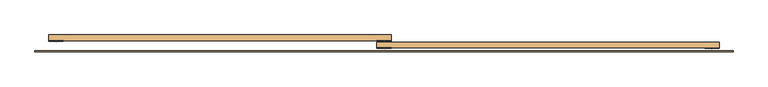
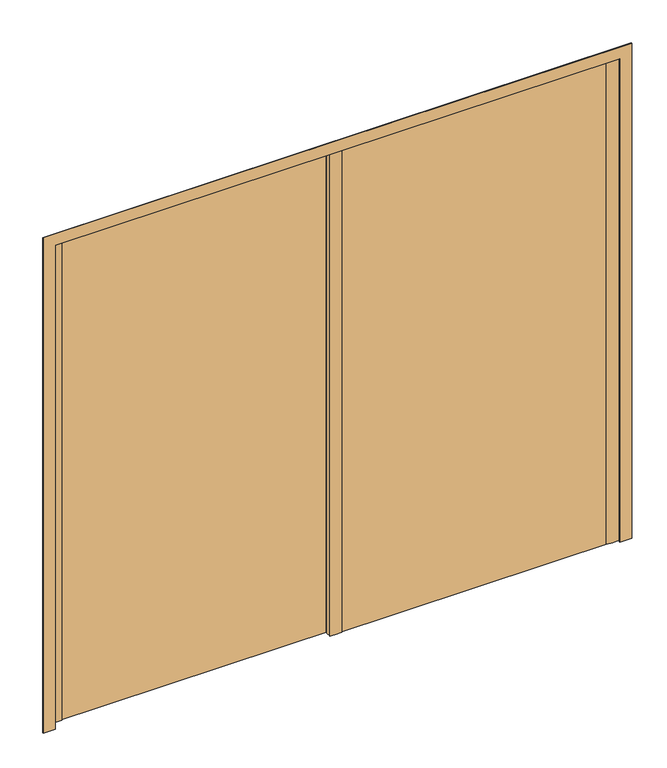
"""IFC4 building model written with IfcOpenShell, lengths in millimetres: door geometry, Portes - Placard coulissante - 2 panneaux - Placard coulissante - 2 panneaux 2.32."""

from ifc_helpers import new_model, si_unit, point, frame, frame_2d, origin, origin_with_axes, place, context, project, spatial, polyline, circle_curve, trimmed, segment, composite_curve, outline, extrude, source, transform, mapped, element, save


def door_fe86ba10(model_context):
    return source(origin(), model_context, "Body", "SweptSolid", [
        extrude(outline(composite_curve([segment(polyline([(1185.0, 10.0), (1185.0, 8.0)]), True, "CONTINUOUS"), segment(trimmed(circle_curve(frame_2d((1160.0, 221.8603852)), 215.3166607), [point((1185.0, 8.0))], [point((1135.0, 8.0))], False, "CARTESIAN"), True, "CONTINUOUS"), segment(polyline([(1135.0, 8.0), (1135.0, 10.0), (1185.0, 10.0)]), True, "CONTINUOUS")], self_intersect=False)), origin_with_axes(), (0.0, 0.0, 1.0), 2100.0),
        extrude(outline(composite_curve([segment(polyline([(1185.0, 35.0), (1185.0, 33.0)]), True, "CONTINUOUS"), segment(trimmed(circle_curve(frame_2d((1160.0, 246.8603852)), 215.3166607), [point((1185.0, 33.0))], [point((1135.0, 33.0))], False, "CARTESIAN"), True, "CONTINUOUS"), segment(polyline([(1135.0, 33.0), (1135.0, 35.0), (1185.0, 35.0)]), True, "CONTINUOUS")], self_intersect=False)), origin_with_axes(), (0.0, 0.0, 1.0), 2100.0),
        extrude(outline(composite_curve([segment(polyline([(50.0, 35.0), (50.0, 33.0)]), True, "CONTINUOUS"), segment(trimmed(circle_curve(frame_2d((25.0, 246.8603852)), 215.3166607), [point((50.0, 33.0))], [point((0.0, 33.0))], False, "CARTESIAN"), True, "CONTINUOUS"), segment(polyline([(0.0, 33.0), (0.0, 35.0), (50.0, 35.0)]), True, "CONTINUOUS")], self_intersect=False)), origin_with_axes(), (0.0, 0.0, 1.0), 2100.0),
        extrude(outline(polyline([(0.0, -48.0), (0.0, 2.0), (2098.0, 2.0), (2098.0, 2318.0), (0.0, 2318.0), (0.0, 2368.0), (2148.0, 2368.0), (2148.0, -48.0), (0.0, -48.0)])), frame((0.0, -3.0, 0.0), z_axis=(0.0, 1.0, 0.0), x_axis=(0.0, 0.0, 1.0)), (0.0, 0.0, 1.0), 3.0),
        extrude(outline(polyline([(2320.0, 10.0), (1135.0, 10.0), (1135.0, 30.0), (2320.0, 30.0), (2320.0, 10.0)])), origin_with_axes(), (0.0, 0.0, 1.0), 2100.0),
        extrude(outline(polyline([(1185.0, 35.0), (0.0, 35.0), (0.0, 55.0), (1185.0, 55.0), (1185.0, 35.0)])), origin_with_axes(), (0.0, 0.0, 1.0), 2100.0),
        extrude(outline(composite_curve([segment(polyline([(2320.0, 10.0), (2320.0, 8.0)]), True, "CONTINUOUS"), segment(trimmed(circle_curve(frame_2d((2295.0, 221.8603852)), 215.3166607), [point((2320.0, 8.0))], [point((2270.0, 8.0))], False, "CARTESIAN"), True, "CONTINUOUS"), segment(polyline([(2270.0, 8.0), (2270.0, 10.0), (2320.0, 10.0)]), True, "CONTINUOUS")], self_intersect=False)), origin_with_axes(), (0.0, 0.0, 1.0), 2100.0),
    ])


if __name__ == "__main__":
    model = new_model("IFC4")
    model_context = context("Model", 3, world=origin())
    ifc_project = project(units=[si_unit("LENGTHUNIT", "METRE", prefix="MILLI")], contexts=[model_context])
    site = spatial("IfcSite", under=ifc_project)
    building = spatial("IfcBuilding", under=site)
    placement = place(None, origin())
    door_shape = door_fe86ba10(model_context)
    element("IfcDoor", 1, ObjectType="Portes - Placard coulissante - 2 panneaux - Placard coulissante - 2 panneaux 2.32", at=placement, inside=building, context=model_context, shape_type="MappedRepresentation", body=[
        mapped(door_shape, transform((0.0, 0.0, 0.0), x_axis=(1.0, 0.0, 0.0), y_axis=(0.0, 1.0, 0.0), z_axis=(0.0, 0.0, 1.0))),
    ])
    save(model, "model.ifc")
